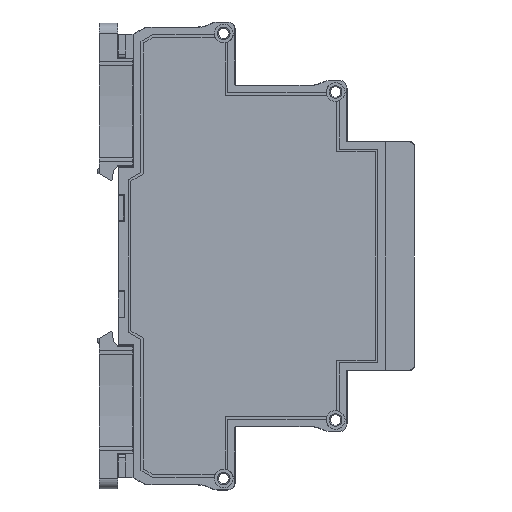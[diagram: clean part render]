
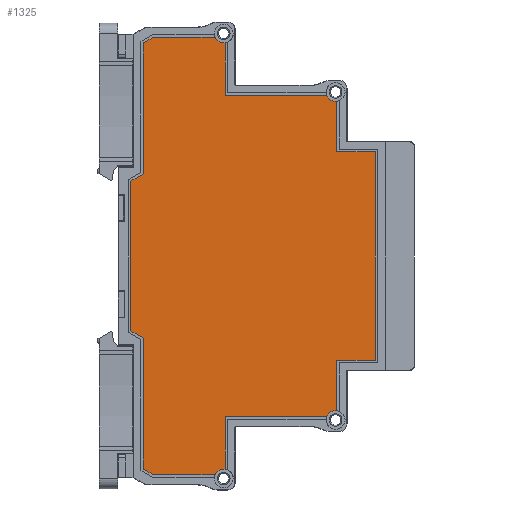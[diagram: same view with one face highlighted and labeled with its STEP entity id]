
A CAD part, front view. The second image highlights one B-rep face of the part: STEP entity #1325.
In plain terms, the highlighted planar face has unit normal (0, -1, 0) as drawn and (1, 0, 0) by its records, which use the part's own axes.
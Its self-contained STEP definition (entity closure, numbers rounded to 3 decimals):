
#1325=ADVANCED_FACE('',(#25247),#25249,.T.);
#25247=FACE_BOUND('',#25248,.T.);
#25248=EDGE_LOOP('',(#44045,#44046,#44047,#44048,#44049,#44050,#44051,#44052,#44053,
#44054,#44055,#44056,#44057,#44058,#44059,#44060,#44061,#44062,#44063,#44064,#44065,
#44066));
#25249=PLANE('',#25250);
#25250=AXIS2_PLACEMENT_3D('',#25251,#25252,#25253);
#25251=CARTESIAN_POINT('',(6.5,0.,0.));
#25252=DIRECTION('',(1.,0.,0.));
#25253=DIRECTION('',(0.,0.,-1.));
#44045=ORIENTED_EDGE('',*,*,#59733,.F.);
#44046=ORIENTED_EDGE('',*,*,#59734,.T.);
#44047=ORIENTED_EDGE('',*,*,#59651,.F.);
#44048=ORIENTED_EDGE('',*,*,#59735,.T.);
#44049=ORIENTED_EDGE('',*,*,#59736,.T.);
#44050=ORIENTED_EDGE('',*,*,#59737,.T.);
#44051=ORIENTED_EDGE('',*,*,#59738,.T.);
#44052=ORIENTED_EDGE('',*,*,#59739,.T.);
#44053=ORIENTED_EDGE('',*,*,#59635,.F.);
#44054=ORIENTED_EDGE('',*,*,#59740,.F.);
#44055=ORIENTED_EDGE('',*,*,#59741,.T.);
#44056=ORIENTED_EDGE('',*,*,#59645,.F.);
#44057=ORIENTED_EDGE('',*,*,#59742,.T.);
#44058=ORIENTED_EDGE('',*,*,#59743,.F.);
#44059=ORIENTED_EDGE('',*,*,#59744,.T.);
#44060=ORIENTED_EDGE('',*,*,#59745,.T.);
#44061=ORIENTED_EDGE('',*,*,#59746,.T.);
#44062=ORIENTED_EDGE('',*,*,#59747,.T.);
#44063=ORIENTED_EDGE('',*,*,#59748,.T.);
#44064=ORIENTED_EDGE('',*,*,#59749,.F.);
#44065=ORIENTED_EDGE('',*,*,#59750,.T.);
#44066=ORIENTED_EDGE('',*,*,#59661,.F.);
#59635=EDGE_CURVE('',#67123,#67108,#67125,.T.);
#59645=EDGE_CURVE('',#67143,#67128,#67145,.T.);
#59651=EDGE_CURVE('',#67155,#67157,#67158,.T.);
#59661=EDGE_CURVE('',#67175,#67177,#67178,.T.);
#59733=EDGE_CURVE('',#67316,#67175,#67317,.T.);
#59734=EDGE_CURVE('',#67316,#67157,#67318,.T.);
#59735=EDGE_CURVE('',#67155,#67319,#67320,.T.);
#59736=EDGE_CURVE('',#67319,#67321,#67322,.T.);
#59737=EDGE_CURVE('',#67321,#67323,#67324,.T.);
#59738=EDGE_CURVE('',#67323,#67325,#67326,.T.);
#59739=EDGE_CURVE('',#67325,#67108,#67327,.T.);
#59740=EDGE_CURVE('',#67328,#67123,#67329,.T.);
#59741=EDGE_CURVE('',#67328,#67128,#67330,.T.);
#59742=EDGE_CURVE('',#67143,#67331,#67332,.T.);
#59743=EDGE_CURVE('',#67333,#67331,#67334,.T.);
#59744=EDGE_CURVE('',#67333,#67335,#67336,.T.);
#59745=EDGE_CURVE('',#67335,#67337,#67338,.T.);
#59746=EDGE_CURVE('',#67337,#67339,#67340,.T.);
#59747=EDGE_CURVE('',#67339,#67341,#67342,.T.);
#59748=EDGE_CURVE('',#67341,#67343,#67344,.T.);
#59749=EDGE_CURVE('',#67345,#67343,#67346,.T.);
#59750=EDGE_CURVE('',#67345,#67177,#67347,.T.);
#67108=VERTEX_POINT('',#80177);
#67123=VERTEX_POINT('',#80210);
#67125=CIRCLE('',#80214,1.85);
#67128=VERTEX_POINT('',#80223);
#67143=VERTEX_POINT('',#80256);
#67145=CIRCLE('',#80260,1.85);
#67155=VERTEX_POINT('',#80284);
#67157=VERTEX_POINT('',#80288);
#67158=CIRCLE('',#80289,1.85);
#67175=VERTEX_POINT('',#80330);
#67177=VERTEX_POINT('',#80334);
#67178=CIRCLE('',#80335,1.85);
#67316=VERTEX_POINT('',#80639);
#67317=LINE('',#80640,#80641);
#67318=LINE('',#80643,#80644);
#67319=VERTEX_POINT('',#80646);
#67320=LINE('',#80647,#80648);
#67321=VERTEX_POINT('',#80650);
#67322=LINE('',#80651,#80652);
#67323=VERTEX_POINT('',#80654);
#67324=LINE('',#80655,#80656);
#67325=VERTEX_POINT('',#80658);
#67326=LINE('',#80659,#80660);
#67327=LINE('',#80662,#80663);
#67328=VERTEX_POINT('',#80665);
#67329=LINE('',#80666,#80667);
#67330=LINE('',#80669,#80670);
#67331=VERTEX_POINT('',#80672);
#67332=LINE('',#80673,#80674);
#67333=VERTEX_POINT('',#80676);
#67334=LINE('',#80677,#80678);
#67335=VERTEX_POINT('',#80680);
#67336=LINE('',#80681,#80682);
#67337=VERTEX_POINT('',#80684);
#67338=LINE('',#80685,#80686);
#67339=VERTEX_POINT('',#80688);
#67340=LINE('',#80689,#80690);
#67341=VERTEX_POINT('',#80692);
#67342=LINE('',#80693,#80694);
#67343=VERTEX_POINT('',#80696);
#67344=LINE('',#80697,#80698);
#67345=VERTEX_POINT('',#80700);
#67346=LINE('',#80701,#80702);
#67347=LINE('',#80704,#80705);
#80177=CARTESIAN_POINT('',(6.5,-30.541,38.985));
#80210=CARTESIAN_POINT('',(6.5,-31.7,37.015));
#80214=AXIS2_PLACEMENT_3D('',#80215,#80216,#80217);
#80215=CARTESIAN_POINT('',(6.5,-32.375,38.738));
#80216=DIRECTION('',(1.,0.,0.));
#80217=DIRECTION('',(0.,0.365,-0.931));
#80223=CARTESIAN_POINT('',(6.5,-42.103,16.897));
#80256=CARTESIAN_POINT('',(6.5,-43.2,14.953));
#80260=AXIS2_PLACEMENT_3D('',#80261,#80262,#80263);
#80261=CARTESIAN_POINT('',(6.5,-43.937,16.65));
#80262=DIRECTION('',(1.,0.,0.));
#80263=DIRECTION('',(0.,0.398,-0.917));
#80284=CARTESIAN_POINT('',(6.5,30.541,38.985));
#80288=CARTESIAN_POINT('',(6.5,31.7,37.015));
#80289=AXIS2_PLACEMENT_3D('',#80290,#80291,#80292);
#80290=CARTESIAN_POINT('',(6.5,32.375,38.738));
#80291=DIRECTION('',(1.,0.,0.));
#80292=DIRECTION('',(0.,-0.991,0.134));
#80330=CARTESIAN_POINT('',(6.5,42.103,16.897));
#80334=CARTESIAN_POINT('',(6.5,43.2,14.953));
#80335=AXIS2_PLACEMENT_3D('',#80336,#80337,#80338);
#80336=CARTESIAN_POINT('',(6.5,43.937,16.65));
#80337=DIRECTION('',(1.,0.,0.));
#80338=DIRECTION('',(0.,-0.991,0.134));
#80639=CARTESIAN_POINT('',(6.5,31.7,16.897));
#80640=CARTESIAN_POINT('',(6.5,31.7,16.897));
#80641=VECTOR('',#80642,1.);
#80642=DIRECTION('',(0.,1.,0.));
#80643=CARTESIAN_POINT('',(6.5,31.7,16.897));
#80644=VECTOR('',#80645,1.);
#80645=DIRECTION('',(0.,0.,1.));
#80646=CARTESIAN_POINT('',(6.5,20.6,38.985));
#80647=CARTESIAN_POINT('',(6.5,30.541,38.985));
#80648=VECTOR('',#80649,1.);
#80649=DIRECTION('',(0.,-1.,0.));
#80650=CARTESIAN_POINT('',(6.5,20.6,46.53));
#80651=CARTESIAN_POINT('',(6.5,20.6,38.985));
#80652=VECTOR('',#80653,1.);
#80653=DIRECTION('',(0.,0.,1.));
#80654=CARTESIAN_POINT('',(6.5,-20.6,46.53));
#80655=CARTESIAN_POINT('',(6.5,20.6,46.53));
#80656=VECTOR('',#80657,1.);
#80657=DIRECTION('',(0.,-1.,0.));
#80658=CARTESIAN_POINT('',(6.5,-20.6,38.985));
#80659=CARTESIAN_POINT('',(6.5,-20.6,46.53));
#80660=VECTOR('',#80661,1.);
#80661=DIRECTION('',(0.,0.,-1.));
#80662=CARTESIAN_POINT('',(6.5,-20.6,38.985));
#80663=VECTOR('',#80664,1.);
#80664=DIRECTION('',(0.,-1.,0.));
#80665=CARTESIAN_POINT('',(6.5,-31.7,16.897));
#80666=CARTESIAN_POINT('',(6.5,-31.7,16.897));
#80667=VECTOR('',#80668,1.);
#80668=DIRECTION('',(0.,0.,1.));
#80669=CARTESIAN_POINT('',(6.5,-31.7,16.897));
#80670=VECTOR('',#80671,1.);
#80671=DIRECTION('',(0.,-1.,0.));
#80672=CARTESIAN_POINT('',(6.5,-43.2,2.761));
#80673=CARTESIAN_POINT('',(6.5,-43.2,14.953));
#80674=VECTOR('',#80675,1.);
#80675=DIRECTION('',(0.,0.,-1.));
#80676=CARTESIAN_POINT('',(6.5,-42.068,0.8));
#80677=CARTESIAN_POINT('',(6.5,-42.068,0.8));
#80678=VECTOR('',#80679,1.);
#80679=DIRECTION('',(0.,-0.5,0.866));
#80680=CARTESIAN_POINT('',(6.5,-16.211,0.8));
#80681=CARTESIAN_POINT('',(6.5,-42.068,0.8));
#80682=VECTOR('',#80683,1.);
#80683=DIRECTION('',(0.,1.,0.));
#80684=CARTESIAN_POINT('',(6.5,-14.768,-1.7));
#80685=CARTESIAN_POINT('',(6.5,-16.211,0.8));
#80686=VECTOR('',#80687,1.);
#80687=DIRECTION('',(0.,0.5,-0.866));
#80688=CARTESIAN_POINT('',(6.5,14.768,-1.7));
#80689=CARTESIAN_POINT('',(6.5,-14.768,-1.7));
#80690=VECTOR('',#80691,1.);
#80691=DIRECTION('',(0.,1.,0.));
#80692=CARTESIAN_POINT('',(6.5,16.211,0.8));
#80693=CARTESIAN_POINT('',(6.5,14.768,-1.7));
#80694=VECTOR('',#80695,1.);
#80695=DIRECTION('',(0.,0.5,0.866));
#80696=CARTESIAN_POINT('',(6.5,42.068,0.8));
#80697=CARTESIAN_POINT('',(6.5,16.211,0.8));
#80698=VECTOR('',#80699,1.);
#80699=DIRECTION('',(0.,1.,0.));
#80700=CARTESIAN_POINT('',(6.5,43.2,2.761));
#80701=CARTESIAN_POINT('',(6.5,43.2,2.761));
#80702=VECTOR('',#80703,1.);
#80703=DIRECTION('',(0.,-0.5,-0.866));
#80704=CARTESIAN_POINT('',(6.5,43.2,2.761));
#80705=VECTOR('',#80706,1.);
#80706=DIRECTION('',(0.,0.,1.));
